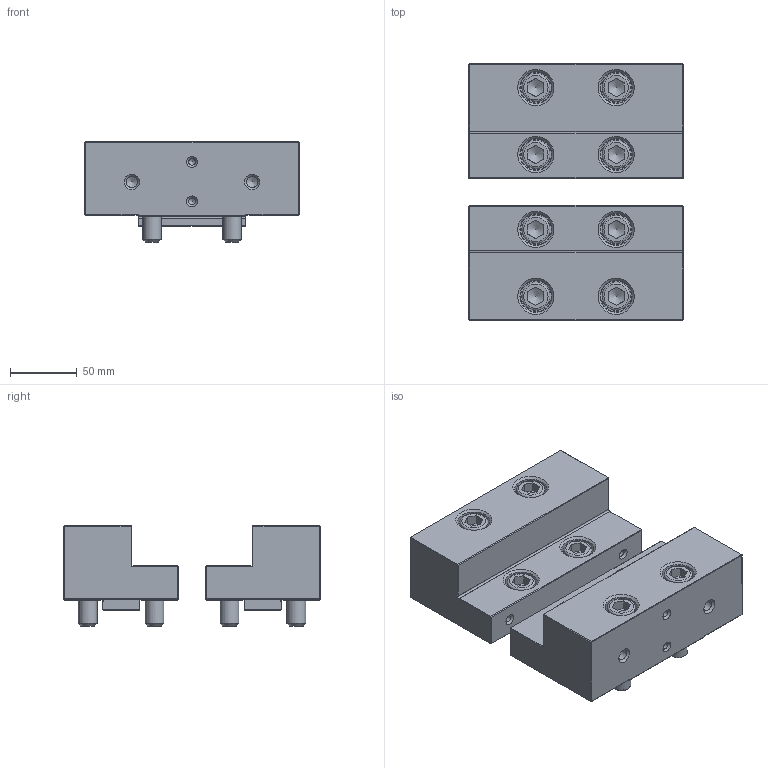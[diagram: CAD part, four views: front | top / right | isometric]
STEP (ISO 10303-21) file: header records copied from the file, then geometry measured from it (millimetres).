
FILE_DESCRIPTION(('STEP AP214'), '1');
FILE_NAME('BB.VS.160.22.030', '', ('UNSPECIFIED'), ('UNSPECIFIED'), 'C3D Converter', 'C3D Toolkit', '');
FILE_SCHEMA(('AUTOMOTIVE_DESIGN { 1 0 10303 214 3 1 1}'));
Length unit declared in the file: millimetre
Products named in the file (1): BB.VS.160.21.030 СБ
Bounding box: 160 x 192 x 75 mm (x, y, z)
Volume: 1198626.7 mm3; surface area: 155985.3 mm2
Topology: 2 solids, 2 shells, 320 faces, 736 edges, 452 vertices
Faces by surface type: plane 190, cone 56, cylinder 50, torus 24
Full cylindrical faces by diameter (mm): 4.917 x8, 8.376 x4, 14 x8, 16 x8, 21 x8, 24 x8
Entity records: 12733 total; most frequent: CARTESIAN_POINT 3537, DIRECTION 1354, ORIENTED_EDGE 1184, EDGE_CURVE 592, AXIS2_PLACEMENT_3D 505, EDGE_LOOP 476, VERTEX_POINT 432, LINE 344
